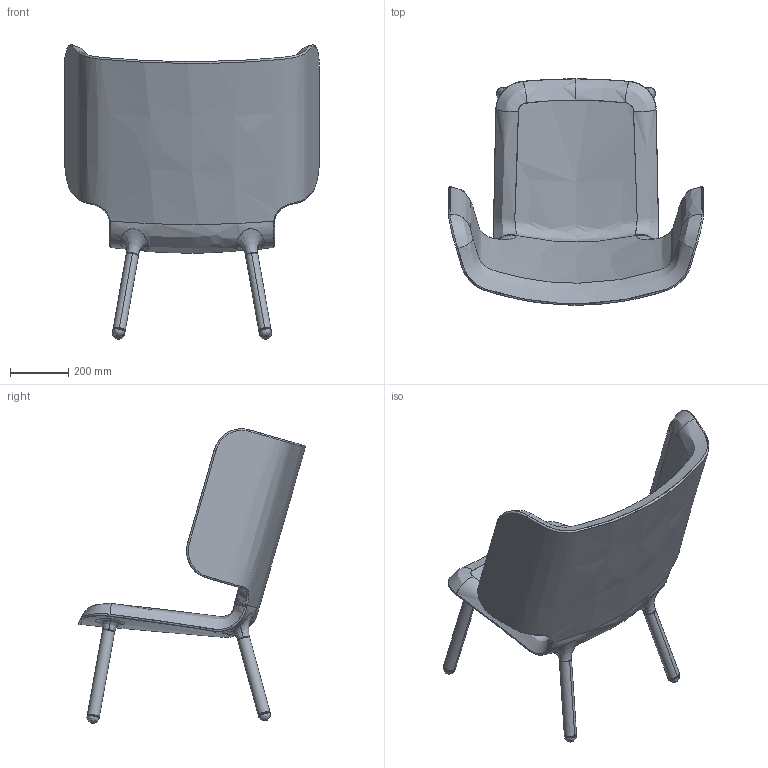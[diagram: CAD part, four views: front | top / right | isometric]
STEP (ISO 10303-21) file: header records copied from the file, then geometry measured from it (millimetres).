
FILE_DESCRIPTION(/* description */ (''),/* implementation_level */ '2;1');
FILE_NAME(/* name */ 'Tembo Chair, New Works',/* time_stamp */ '2015-12-14T23:35:37+01:00',/* author */ (''),/* organization */ (''),/* preprocessor_version */ 'ST-DEVELOPER v15',/* originating_system */ '',/* authorisation */ '');
FILE_SCHEMA (('AUTOMOTIVE_DESIGN'));
Length unit declared in the file: millimetre
Products named in the file (1): Document
Bounding box: 872.7 x 775.81 x 1008.24 mm (x, y, z)
Surface area: 2237680.7 mm2 (no closed solid volume)
Topology: 0 solids, 158 shells, 158 faces, 503 edges, 499 vertices
Faces by surface type: bspline 145, plane 13
Entity records: 27334 total; most frequent: CARTESIAN_POINT 24569, ORIENTED_EDGE 501, EDGE_CURVE 501, VERTEX_POINT 501, B_SPLINE_CURVE_WITH_KNOTS 186, EDGE_LOOP 182, PRESENTATION_LAYER_ASSIGNMENT 158, SHELL_BASED_SURFACE_MODEL 158
